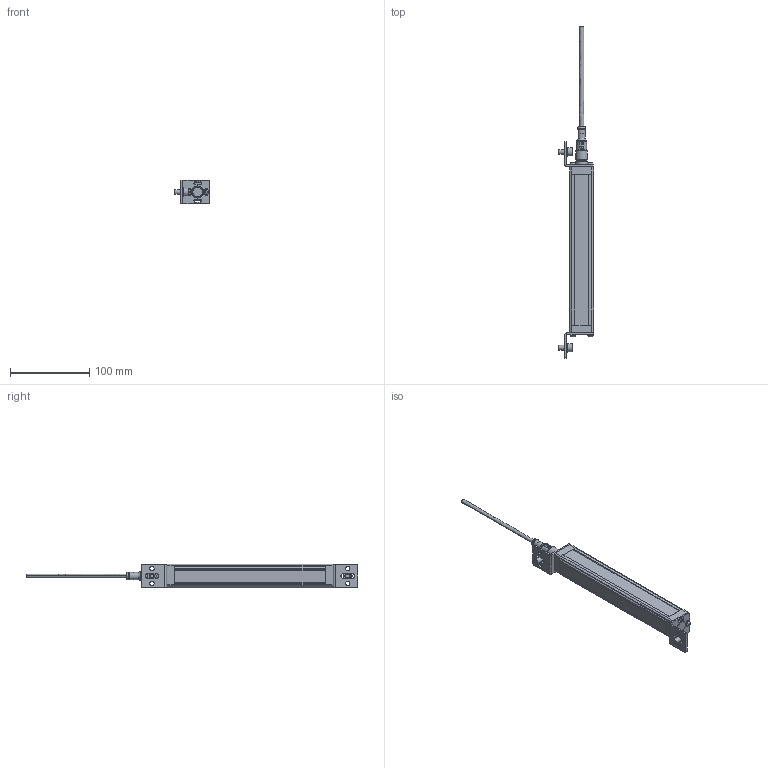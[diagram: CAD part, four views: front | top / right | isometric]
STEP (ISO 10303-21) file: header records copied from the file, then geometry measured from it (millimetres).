
FILE_DESCRIPTION(/* description */ (''),/* implementation_level */ '2;1');
FILE_NAME(/* name */ 'QE10-20-180.prt.stp',/* time_stamp */ '2023-07-18T20:13:24+08:00',/* author */ (''),/* organization */ (''),/* preprocessor_version */ 'ST-DEVELOPER v14',/* originating_system */ 'SIEMENS PLM Software NX 8.0',/* authorisation */ '');
FILE_SCHEMA (('CONFIG_CONTROL_DESIGN'));
Products named in the file (1): QE10-20-180
Bounding box: 44.2 x 418.8 x 30 mm (x, y, z)
Volume: 178626.3 mm3; surface area: 58061.4 mm2
Topology: 25 solids, 25 shells, 615 faces, 1569 edges, 1039 vertices
Faces by surface type: plane 335, cylinder 196, bspline 57, cone 18, sphere 5, torus 4
Full cylindrical faces by diameter (mm): 0.7 x2, 1 x5, 2 x5, 2.2 x8, 3.6 x8, 4 x4, 5.5 x12, 6 x2, 7 x2, 8 x1, 9.04 x1, 9.1 x1, 10 x3, 10.8 x1, 11 x2, 11.85 x1, 11.9 x1, 14.5 x1, 15 x2, 15.2 x2
Entity records: 41715 total; most frequent: CARTESIAN_POINT 27549, ORIENTED_EDGE 2832, DIRECTION 2774, EDGE_CURVE 1416, AXIS2_PLACEMENT_3D 1007, VERTEX_POINT 983, EDGE_LOOP 813, LINE 760
